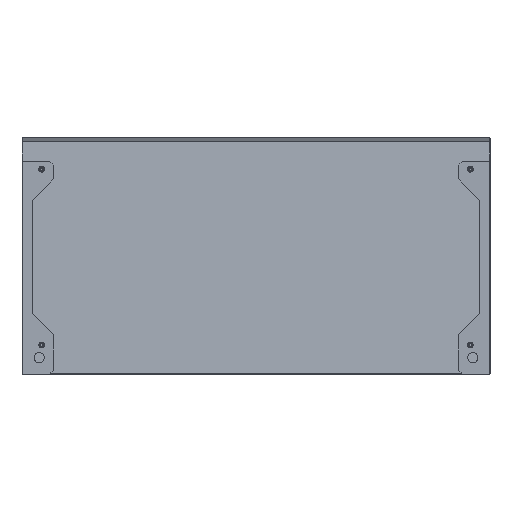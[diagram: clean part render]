
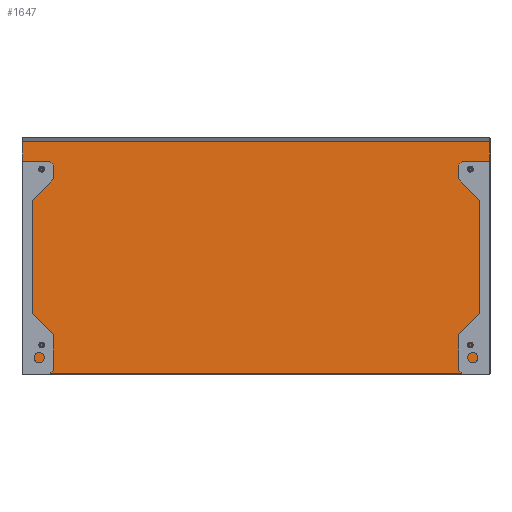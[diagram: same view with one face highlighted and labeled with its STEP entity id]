
A CAD part, front view. The second image highlights one B-rep face of the part: STEP entity #1647.
In plain terms, the highlighted planar face has unit normal (0, -0.999, 0.054).
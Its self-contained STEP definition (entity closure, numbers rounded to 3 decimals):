
#312 = EDGE_CURVE ( 'NONE', #3350, #3352, #4054, .T. ) ;
#313 = EDGE_CURVE ( 'NONE', #3352, #3351, #4057, .T. ) ;
#314 = EDGE_CURVE ( 'NONE', #3349, #3350, #4060, .T. ) ;
#315 = EDGE_CURVE ( 'NONE', #3351, #3349, #4063, .T. ) ;
#415 = AXIS2_PLACEMENT_3D ( 'NONE', #1076, #1077, #1078 ) ;
#419 = FACE_OUTER_BOUND ( 'NONE', #3590, .T. ) ;
#631 = VECTOR ( 'NONE', #4065, 1000. ) ;
#634 = VECTOR ( 'NONE', #4062, 1000. ) ;
#635 = VECTOR ( 'NONE', #4059, 1000. ) ;
#638 = VECTOR ( 'NONE', #4056, 1000. ) ;
#1075 = PLANE ( 'NONE',  #415 ) ;
#1076 = CARTESIAN_POINT ( 'NONE',  ( -1210., 57.67, 604.541 ) ) ;
#1077 = DIRECTION ( 'NONE',  ( 0., 0.999, -0.054 ) ) ;
#1078 = DIRECTION ( 'NONE',  ( 0., 0.054, 0.999 ) ) ;
#1323 = CARTESIAN_POINT ( 'NONE',  ( -2., 57.574, 602.774 ) ) ;
#1324 = CARTESIAN_POINT ( 'NONE',  ( -2., 24.905, 1.967 ) ) ;
#1325 = CARTESIAN_POINT ( 'NONE',  ( -1208., 57.574, 602.774 ) ) ;
#1326 = CARTESIAN_POINT ( 'NONE',  ( -1208., 24.905, 1.967 ) ) ;
#1647 = ADVANCED_FACE ( 'NONE', ( #419 ), #1075, .F. ) ;
#2031 = ORIENTED_EDGE ( 'NONE', *, *, #315, .F. ) ;
#2032 = ORIENTED_EDGE ( 'NONE', *, *, #312, .F. ) ;
#2033 = ORIENTED_EDGE ( 'NONE', *, *, #314, .F. ) ;
#2034 = ORIENTED_EDGE ( 'NONE', *, *, #313, .F. ) ;
#3349 = VERTEX_POINT ( 'NONE', #1323 ) ;
#3350 = VERTEX_POINT ( 'NONE', #1324 ) ;
#3351 = VERTEX_POINT ( 'NONE', #1325 ) ;
#3352 = VERTEX_POINT ( 'NONE', #1326 ) ;
#3590 = EDGE_LOOP ( 'NONE', ( #2034, #2032, #2033, #2031 ) ) ;
#4054 = LINE ( 'NONE', #4055, #638 ) ;
#4055 = CARTESIAN_POINT ( 'NONE',  ( -1210., 24.905, 1.967 ) ) ;
#4056 = DIRECTION ( 'NONE',  ( -1., 0., 0. ) ) ;
#4057 = LINE ( 'NONE', #4058, #635 ) ;
#4058 = CARTESIAN_POINT ( 'NONE',  ( -1208., 57.67, 604.541 ) ) ;
#4059 = DIRECTION ( 'NONE',  ( 0., 0.054, 0.999 ) ) ;
#4060 = LINE ( 'NONE', #4061, #634 ) ;
#4061 = CARTESIAN_POINT ( 'NONE',  ( -2., 57.67, 604.541 ) ) ;
#4062 = DIRECTION ( 'NONE',  ( 0., -0.054, -0.999 ) ) ;
#4063 = LINE ( 'NONE', #4064, #631 ) ;
#4064 = CARTESIAN_POINT ( 'NONE',  ( -1210., 57.574, 602.774 ) ) ;
#4065 = DIRECTION ( 'NONE',  ( 1., 0., 0. ) ) ;
